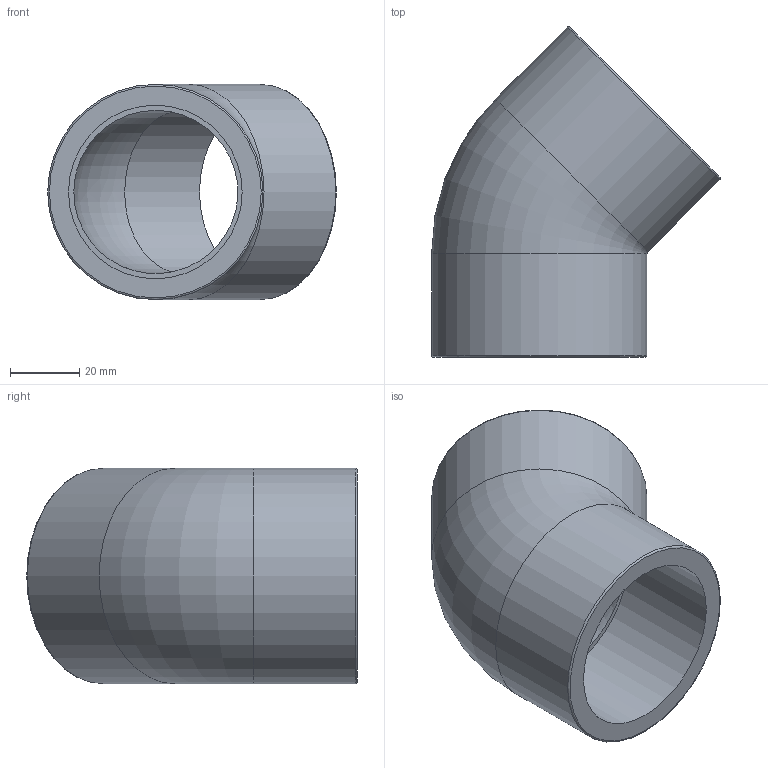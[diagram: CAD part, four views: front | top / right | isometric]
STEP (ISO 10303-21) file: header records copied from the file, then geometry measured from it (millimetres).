
FILE_DESCRIPTION(/* description */ ('PVC gomito a 45° incollaggio metrico'),/* implementation_level */ '2;1');
FILE_NAME(/* name */ 'C:\Users\POLYPIPE\Desktop\DATASET INVENTOR\LIBRERIA EFFAST\RACCORDI 3DxWEB\RDR\3D_RDRGYD\3D_RDRGYD0500.stp',/* time_stamp */ '2018-01-19T14:34:20+01:00',/* author */ ('POLYPIPE'),/* organization */ ('Polypipe Italia s.r.l.'),/* preprocessor_version */ 'ST-DEVELOPER v16.1',/* originating_system */ 'Autodesk Inventor 2016',/* authorisation */ '');
FILE_SCHEMA (('CONFIG_CONTROL_DESIGN'));
Length unit declared in the file: millimetre
Products named in the file (1): 3D_RDRGYD
Bounding box: 83.12 x 95.12 x 62 mm (x, y, z)
Volume: 94031.4 mm3; surface area: 32053.5 mm2
Topology: 1 solids, 1 shells, 12 faces, 20 edges, 12 vertices
Faces by surface type: torus 4, cylinder 4, plane 4
Full cylindrical faces by diameter (mm): 50 x2, 62 x2
Entity records: 396 total; most frequent: CARTESIAN_POINT 167, DIRECTION 46, EDGE_LOOP 24, ORIENTED_EDGE 24, AXIS2_PLACEMENT_3D 23, FACE_BOUND 12, FACE_OUTER_BOUND 12, VERTEX_POINT 12
